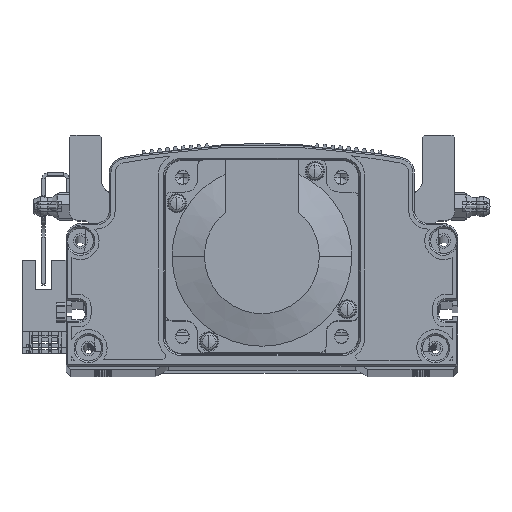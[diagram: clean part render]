
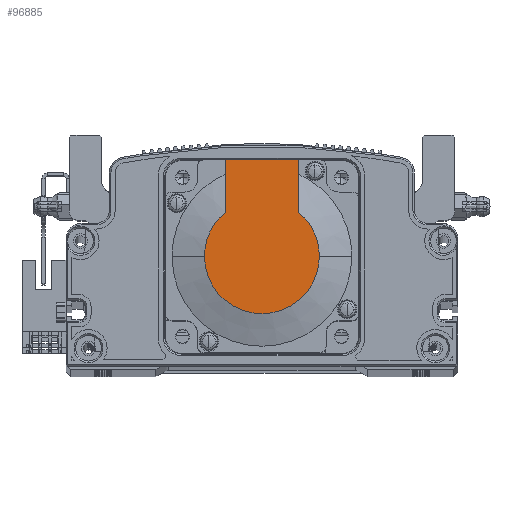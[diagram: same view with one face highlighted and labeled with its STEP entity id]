
A CAD part, top view. The second image highlights one B-rep face of the part: STEP entity #96885.
In plain terms, the highlighted planar face has unit normal (0, 0, 1) as drawn and (-1, 0, 0) by its records, which use the part's own axes.
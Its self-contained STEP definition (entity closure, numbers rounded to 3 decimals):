
#980 = AXIS2_PLACEMENT_3D ( 'NONE', #32755, #63669, #48367 ) ;
#1575 = DIRECTION ( 'NONE',  ( 0., 0., -1. ) ) ;
#1943 = VECTOR ( 'NONE', #67068, 1000. ) ;
#3618 = CARTESIAN_POINT ( 'NONE',  ( -118.5, 30., -11.45 ) ) ;
#6082 = VECTOR ( 'NONE', #90275, 1000. ) ;
#7141 = DIRECTION ( 'NONE',  ( 0., 0., -1. ) ) ;
#11803 = EDGE_CURVE ( 'NONE', #66136, #60287, #77334, .T. ) ;
#15439 = CARTESIAN_POINT ( 'NONE',  ( -118.5, 30., 25. ) ) ;
#16068 = AXIS2_PLACEMENT_3D ( 'NONE', #68894, #71452, #7141 ) ;
#17447 = VERTEX_POINT ( 'NONE', #41685 ) ;
#22504 = CARTESIAN_POINT ( 'NONE',  ( -118.5, 0., 0. ) ) ;
#22912 = AXIS2_PLACEMENT_3D ( 'NONE', #22504, #46288, #1575 ) ;
#27024 = CARTESIAN_POINT ( 'NONE',  ( -118.5, 0., 0. ) ) ;
#28222 = VERTEX_POINT ( 'NONE', #87507 ) ;
#31077 = CIRCLE ( 'NONE', #87986, 17.881 ) ;
#32755 = CARTESIAN_POINT ( 'NONE',  ( -118.5, -8.941, 0. ) ) ;
#32884 = EDGE_CURVE ( 'NONE', #60287, #35392, #52998, .T. ) ;
#33351 = ORIENTED_EDGE ( 'NONE', *, *, #95684, .T. ) ;
#34545 = DIRECTION ( 'NONE',  ( -1., 0., 0. ) ) ;
#35392 = VERTEX_POINT ( 'NONE', #55907 ) ;
#41685 = CARTESIAN_POINT ( 'NONE',  ( -118.5, 0., 17.881 ) ) ;
#41887 = CIRCLE ( 'NONE', #16068, 17.881 ) ;
#44923 = EDGE_CURVE ( 'NONE', #28222, #92787, #41887, .T. ) ;
#46288 = DIRECTION ( 'NONE',  ( -1., 0., 0. ) ) ;
#47292 = ORIENTED_EDGE ( 'NONE', *, *, #87423, .T. ) ;
#48367 = DIRECTION ( 'NONE',  ( 0., 0., 1. ) ) ;
#49532 = DIRECTION ( 'NONE',  ( 0., -1., 0. ) ) ;
#49979 = ORIENTED_EDGE ( 'NONE', *, *, #32884, .F. ) ;
#52998 = LINE ( 'NONE', #55776, #70492 ) ;
#55776 = CARTESIAN_POINT ( 'NONE',  ( -118.5, 0., 11.45 ) ) ;
#55907 = CARTESIAN_POINT ( 'NONE',  ( -118.5, 13.735, 11.45 ) ) ;
#57949 = ORIENTED_EDGE ( 'NONE', *, *, #44923, .T. ) ;
#57986 = LINE ( 'NONE', #74235, #1943 ) ;
#60287 = VERTEX_POINT ( 'NONE', #84124 ) ;
#60797 = EDGE_LOOP ( 'NONE', ( #33351, #57949, #47292, #60969, #49979, #63280 ) ) ;
#60969 = ORIENTED_EDGE ( 'NONE', *, *, #70135, .T. ) ;
#63280 = ORIENTED_EDGE ( 'NONE', *, *, #11803, .F. ) ;
#63669 = DIRECTION ( 'NONE',  ( -1., 0., 0. ) ) ;
#66136 = VERTEX_POINT ( 'NONE', #3618 ) ;
#67068 = DIRECTION ( 'NONE',  ( 0., -1., 0. ) ) ;
#68894 = CARTESIAN_POINT ( 'NONE',  ( -118.5, 0., 0. ) ) ;
#70135 = EDGE_CURVE ( 'NONE', #17447, #35392, #83704, .T. ) ;
#70492 = VECTOR ( 'NONE', #49532, 1000. ) ;
#71452 = DIRECTION ( 'NONE',  ( -1., 0., 0. ) ) ;
#74235 = CARTESIAN_POINT ( 'NONE',  ( -118.5, -8.941, -11.45 ) ) ;
#77334 = LINE ( 'NONE', #15439, #6082 ) ;
#77699 = PLANE ( 'NONE',  #980 ) ;
#80104 = FACE_OUTER_BOUND ( 'NONE', #60797, .T. ) ;
#83569 = CARTESIAN_POINT ( 'NONE',  ( -118.5, 0., -17.881 ) ) ;
#83704 = CIRCLE ( 'NONE', #22912, 17.881 ) ;
#84124 = CARTESIAN_POINT ( 'NONE',  ( -118.5, 30., 11.45 ) ) ;
#87423 = EDGE_CURVE ( 'NONE', #92787, #17447, #31077, .T. ) ;
#87507 = CARTESIAN_POINT ( 'NONE',  ( -118.5, 13.735, -11.45 ) ) ;
#87986 = AXIS2_PLACEMENT_3D ( 'NONE', #27024, #34545, #93701 ) ;
#90275 = DIRECTION ( 'NONE',  ( 0., 0., 1. ) ) ;
#92787 = VERTEX_POINT ( 'NONE', #83569 ) ;
#93701 = DIRECTION ( 'NONE',  ( 0., 0., -1. ) ) ;
#95684 = EDGE_CURVE ( 'NONE', #66136, #28222, #57986, .T. ) ;
#96885 = ADVANCED_FACE ( 'NONE', ( #80104 ), #77699, .T. ) ;
